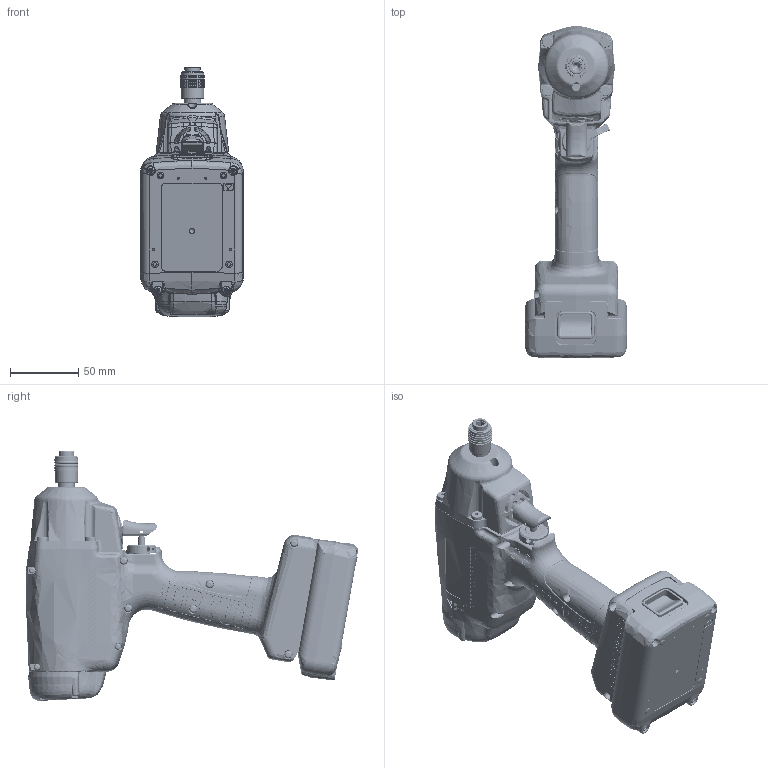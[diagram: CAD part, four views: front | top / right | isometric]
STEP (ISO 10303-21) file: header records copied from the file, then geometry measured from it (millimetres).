
FILE_DESCRIPTION (( 'STEP AP203' ), '1' );
FILE_NAME ('UBX-T60D_ŠOŠÏ.STEP', '2023-04-12T02:43:44', ( '' ), ( '' ), 'SwSTEP 2.0', 'SolidWorks 2016', '' );
FILE_SCHEMA (( 'CONFIG_CONTROL_DESIGN' ));
Length unit declared in the file: millimetre
Products named in the file (16): UBX-T70_本体L_外観用_履歴削除部品データ(T60D用); ビット止めリング; 12F-013-0_本体上フタ_外観用; ビットスリーブ; UBX-T60フロントケース_(内径部埋める); UBX-T70_スイッチ基部_外観用; ビット座金; バルブレバー_147-107-2; バッテリー14.4V; UBX-T70_本体R_外観用_履歴削除部品データ; UBX-T60D_外観; Part1^UBX-T60D_外観用; フロントケースパッキン; 12F-012-0_本体フタ_外観用; ビット主軸先端; 切換レバー_09B-212-4
Assembly tree (14 placements, depth 2):
  UBX-T60D_外観
    UBX-T70_本体R_外観用_履歴削除部品データ
    UBX-T70_スイッチ基部_外観用
    バルブレバー_147-107-2
    切換レバー_09B-212-4
    バッテリー14.4V
    12F-012-0_本体フタ_外観用
    12F-013-0_本体上フタ_外観用
    フロントケースパッキン
    UBX-T60フロントケース_(内径部埋める)
    ビット主軸先端
    ビットスリーブ
    ビット座金
    ビット止めリング
    UBX-T70_本体L_外観用_履歴削除部品データ(T60D用)
  Part1^UBX-T60D_外観用
Bounding box: 75 x 242.5 x 182.51 mm (x, y, z)
Volume: 874530.9 mm3; surface area: 160442.1 mm2
Topology: 17 solids, 26 shells, 6005 faces, 15786 edges, 9965 vertices
Faces by surface type: plane 2398, cylinder 1505, bspline 1462, torus 356, cone 232, sphere 52
Entity records: 254252 total; most frequent: CARTESIAN_POINT 118373, ORIENTED_EDGE 31240, DIRECTION 23340, EDGE_CURVE 15620, VERTEX_POINT 9955, AXIS2_PLACEMENT_3D 8119, VECTOR 7102, LINE 7102
